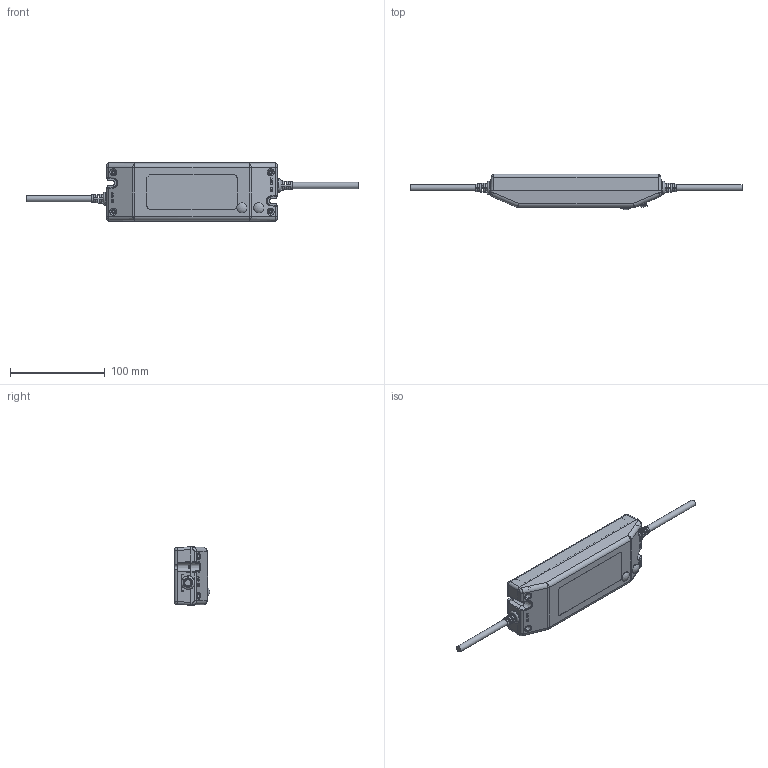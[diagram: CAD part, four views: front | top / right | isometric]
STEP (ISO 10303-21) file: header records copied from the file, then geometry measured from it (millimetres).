
FILE_DESCRIPTION((''),'2;1');
FILE_NAME('W:\mechanical\機構工程圖\3D圖檔\3D Outline-2020\已完成待審核\HLN-80H.stp','2020-06-12T13:02:20',('shirley'),(''),'Autodesk Inventor 2010','Autodesk Inventor 2010','');
FILE_SCHEMA(('AUTOMOTIVE_DESIGN { 1 0 10303 214 1 1 1 1 }'));
Length unit declared in the file: millimetre
Products named in the file (8): HLN-80H; PCB2; r; CASE; VR; RD0801007.1.1.1; VR_CPY
Assembly tree (8 placements, depth 3):
  HLN-80H
    PCB2
    r  x2
    CASE
    VR
      RD0801007.1.1.1
    VR_CPY
      RD0801007.1.1.1
Bounding box: 350.42 x 37.25 x 61.53 mm (x, y, z)
Volume: 97024.6 mm3; surface area: 106384.6 mm2
Topology: 4 solids, 6 shells, 1168 faces, 3448 edges, 2482 vertices
Faces by surface type: plane 853, cylinder 155, cone 93, bspline 53, sphere 11, torus 3
Full cylindrical faces by diameter (mm): 2.5 x6, 3 x2, 6.6 x4, 7 x1, 7.807 x2, 7.912 x2, 10.5 x3, 14 x2
Entity records: 41743 total; most frequent: CARTESIAN_POINT 12864, ORIENTED_EDGE 5656, DIRECTION 5349, EDGE_CURVE 2838, VECTOR 2259, LINE 2259, VERTEX_POINT 1843, AXIS2_PLACEMENT_3D 1545
